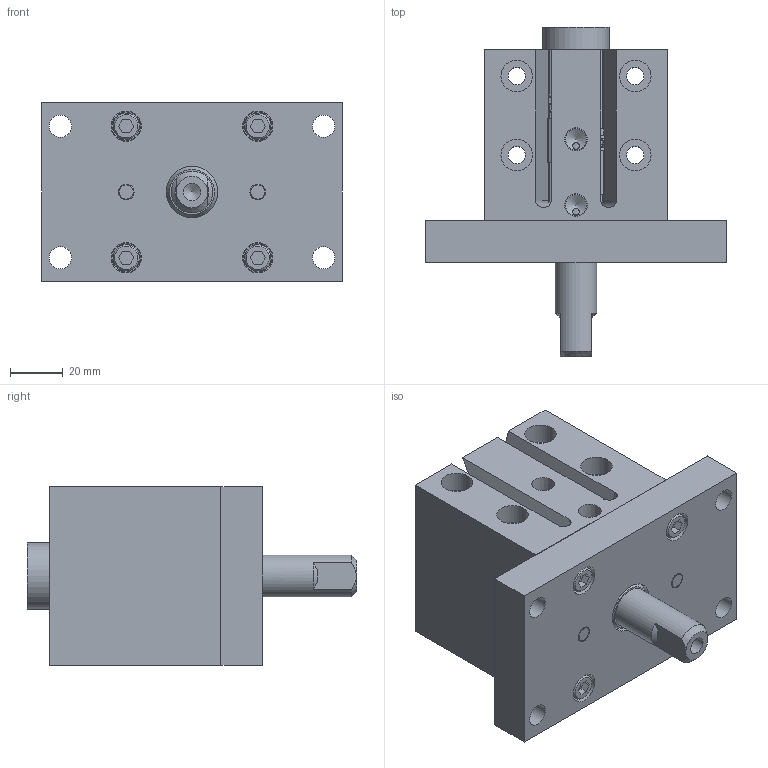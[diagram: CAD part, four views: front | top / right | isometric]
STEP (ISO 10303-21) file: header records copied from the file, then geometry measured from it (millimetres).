
FILE_DESCRIPTION(/* description */ ('PNEUMATIC PASS THRU GROUND UNIT'),/* implementation_level */ '2;1');
FILE_NAME(/* name */ 'C:\Vault Workspace\CAD\Welker\Cylinders\GBP\GBP0G.stp',/* time_stamp */ '2021-06-24T14:00:46-04:00',/* author */ ('KPL'),/* organization */ (''),/* preprocessor_version */ 'ST-DEVELOPER v18.1',/* originating_system */ 'Autodesk Inventor 2020',/* authorisation */ '');
FILE_SCHEMA (('AUTOMOTIVE_DESIGN { 1 0 10303 214 3 1 1 }'));
Products named in the file (10): GBPL01; 6mmX25 ; M6X1-20 SHCS; NL6; L3 Sensor 1; GBPE01; GBPE02; GBPE03; AN-09U2145; AN-03U2145
Assembly tree (17 placements, depth 2):
  GBPL01
    6mmX25   x2
    M6X1-20 SHCS  x4
    NL6  x4
    L3 Sensor 1  x2
    GBPE01
    GBPE02
    GBPE03
    AN-09U2145
    AN-03U2145
Bounding box: 114.3 x 125 x 68 mm (x, y, z)
Volume: 377633.4 mm3; surface area: 90215.9 mm2
Topology: 17 solids, 17 shells, 506 faces, 1326 edges, 890 vertices
Faces by surface type: plane 320, cylinder 139, cone 37, torus 8, sphere 2
Full cylindrical faces by diameter (mm): 2.5 x2, 2.9 x2, 4.917 x4, 6 x10, 6.5 x8, 6.647 x5, 7.95 x2, 8 x2, 8.5 x4, 10 x4, 10.8 x4, 11.5 x4, 12 x4, 13.335 x1, 14.935 x2, 15.875 x4, 15.951 x2, 16.129 x1, 19.609 x1, 22.022 x1, 22.225 x1, 22.479 x2, 25.4 x1, 26.162 x1, 28.55 x1, 29.159 x1, 31.75 x3, 32.258 x1, 32.309 x1, 33.782 x1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
Entity records: 10936 total; most frequent: CARTESIAN_POINT 1978, DIRECTION 1875, ORIENTED_EDGE 1676, EDGE_CURVE 838, AXIS2_PLACEMENT_3D 708, VERTEX_POINT 582, LINE 459, VECTOR 459
